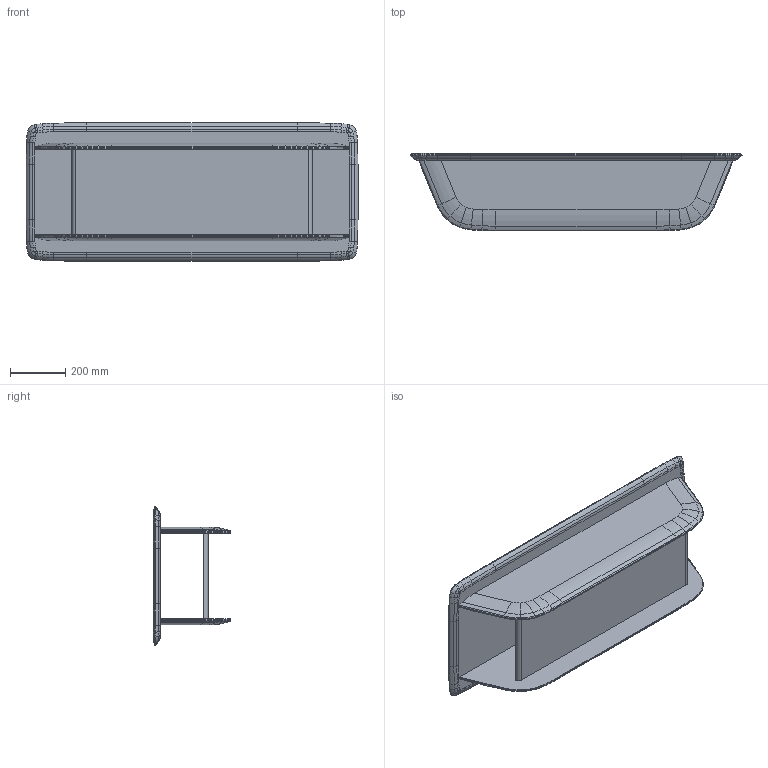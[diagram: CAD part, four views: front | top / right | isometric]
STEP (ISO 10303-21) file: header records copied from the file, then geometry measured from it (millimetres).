
FILE_DESCRIPTION (( 'STEP AP203' ), '1' );
FILE_NAME ('WING COFFEE TABLE.STEP', '2023-04-11T08:42:09', ( '' ), ( '' ), 'SwSTEP 2.0', 'SolidWorks 2023', '' );
FILE_SCHEMA (( 'CONFIG_CONTROL_DESIGN' ));
Length unit declared in the file: millimetre
Products named in the file (2): Group1^WING COFFEE TABLE; WING COFFEE TABLE
Assembly tree (1 placements, depth 2):
  WING COFFEE TABLE
    Group1^WING COFFEE TABLE
Bounding box: 1200 x 280 x 500 mm (x, y, z)
Volume: 29572062.1 mm3; surface area: 2751559.3 mm2
Topology: 1 solids, 1 shells, 364 faces, 796 edges, 436 vertices
Faces by surface type: torus 264, cylinder 60, bspline 20, plane 12, sphere 8
Entity records: 10552 total; most frequent: DIRECTION 2116, CARTESIAN_POINT 2076, ORIENTED_EDGE 1592, AXIS2_PLACEMENT_3D 1012, EDGE_CURVE 796, CIRCLE 664, VERTEX_POINT 436, EDGE_LOOP 368
